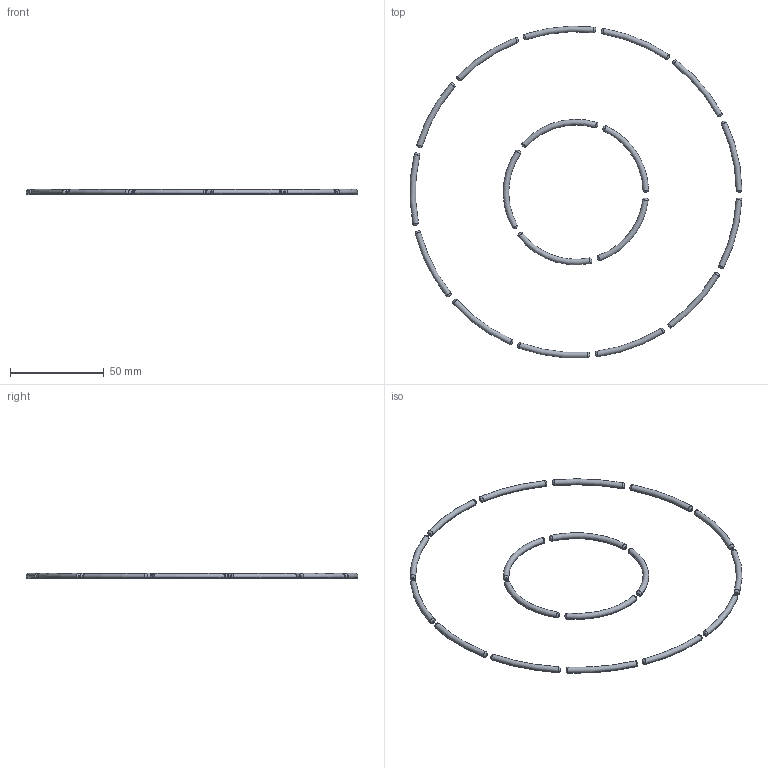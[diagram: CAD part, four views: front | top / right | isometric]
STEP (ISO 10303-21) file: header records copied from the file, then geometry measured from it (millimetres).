
FILE_DESCRIPTION(/* description */ (''),/* implementation_level */ '2;1');
FILE_NAME(/* name */ 'SBOOX_Druckbox_Abstandshalter.step',/* time_stamp */ '2025-09-07T12:36:34+02:00',/* author */ (''),/* organization */ (''),/* preprocessor_version */ 'ST-DEVELOPER v20.1',/* originating_system */ 'Autodesk Translation Framework v14.10.0.0',/* authorisation */ '');
FILE_SCHEMA (('AUTOMOTIVE_DESIGN { 1 0 10303 214 3 1 1 }'));
Length unit declared in the file: millimetre
Products named in the file (1): Rotella_V2
Bounding box: 176.98 x 176.85 x 2.79 mm (x, y, z)
Volume: 4991.8 mm3; surface area: 7090.3 mm2
Topology: 18 solids, 18 shells, 324 faces, 648 edges, 360 vertices
Faces by surface type: bspline 180, plane 54, cone 36, cylinder 36, torus 18
Entity records: 19552 total; most frequent: CARTESIAN_POINT 14025, ORIENTED_EDGE 1296, DIRECTION 722, EDGE_CURVE 648, VERTEX_POINT 360, B_SPLINE_CURVE_WITH_KNOTS 324, FACE_OUTER_BOUND 324, EDGE_LOOP 324
